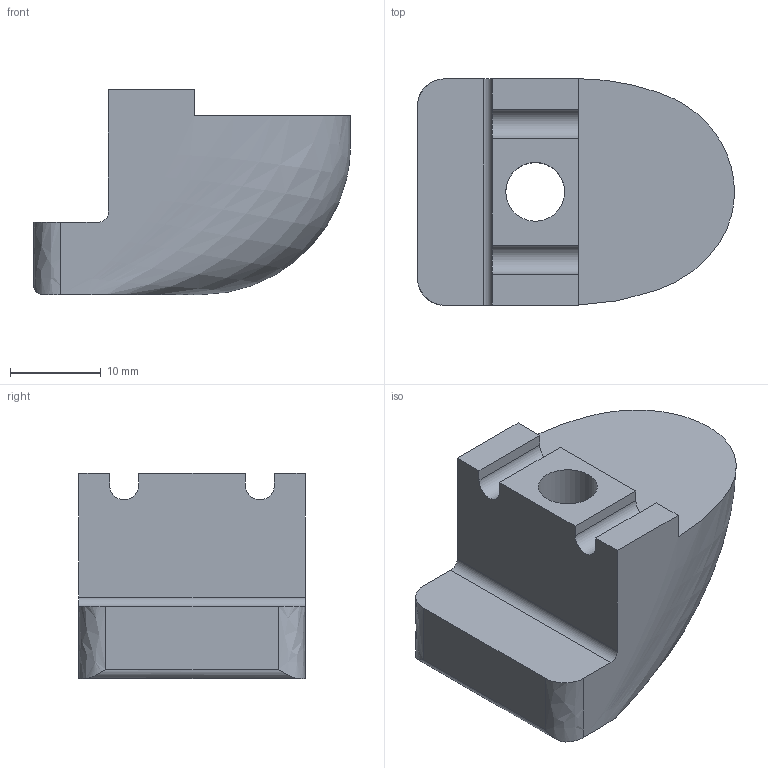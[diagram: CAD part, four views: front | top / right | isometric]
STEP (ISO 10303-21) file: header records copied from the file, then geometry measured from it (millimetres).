
FILE_DESCRIPTION (( 'STEP AP214' ), '1' );
FILE_NAME ('L19134B.step', '2024-12-03T16:22:38', ( '' ), ( '' ), 'SwSTEP 2.0', 'SolidWorks 2023', '' );
FILE_SCHEMA (( 'AUTOMOTIVE_DESIGN' ));
Length unit declared in the file: millimetre
Products named in the file (1): L19134B
Bounding box: 35 x 25 x 22.65 mm (x, y, z)
Volume: 10757.8 mm3; surface area: 3840.7 mm2
Topology: 1 solids, 1 shells, 32 faces, 87 edges, 57 vertices
Faces by surface type: plane 23, cylinder 5, bspline 4
Full cylindrical faces by diameter (mm): 6.5 x1
Entity records: 1617 total; most frequent: CARTESIAN_POINT 809, ORIENTED_EDGE 170, DIRECTION 150, EDGE_CURVE 85, VECTOR 56, VERTEX_POINT 56, LINE 56, AXIS2_PLACEMENT_3D 47
